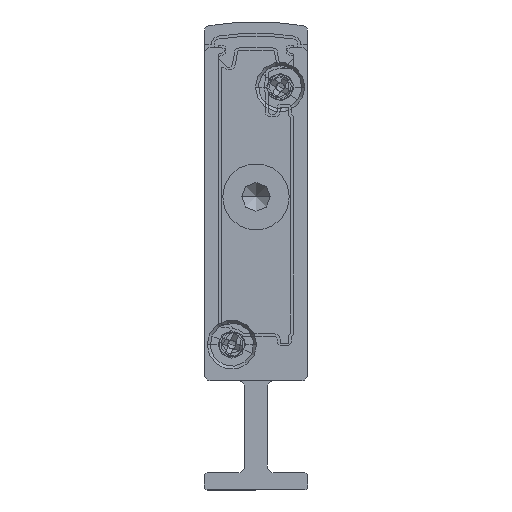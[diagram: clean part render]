
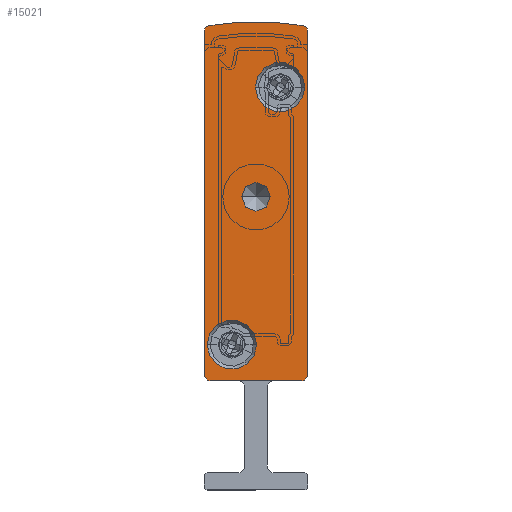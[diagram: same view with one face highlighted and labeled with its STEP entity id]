
A CAD part, front view. The second image highlights one B-rep face of the part: STEP entity #15021.
In plain terms, the highlighted planar face has unit normal (0, -1, 0).
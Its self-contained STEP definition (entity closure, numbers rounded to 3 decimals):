
#232 = CIRCLE ( 'NONE', #3534, 2.15 ) ;
#253 = AXIS2_PLACEMENT_3D ( 'NONE', #1400, #11431, #4004 ) ;
#258 = AXIS2_PLACEMENT_3D ( 'NONE', #1835, #25040, #27491 ) ;
#365 = AXIS2_PLACEMENT_3D ( 'NONE', #21447, #10867, #13573 ) ;
#407 = ORIENTED_EDGE ( 'NONE', *, *, #19669, .T. ) ;
#715 = CIRCLE ( 'NONE', #1598, 2.15 ) ;
#1400 = CARTESIAN_POINT ( 'NONE',  ( 4.5, -2.5, 25.5 ) ) ;
#1589 = CARTESIAN_POINT ( 'NONE',  ( 0., -2.5, 39.902 ) ) ;
#1598 = AXIS2_PLACEMENT_3D ( 'NONE', #32443, #29825, #14449 ) ;
#1764 = EDGE_LOOP ( 'NONE', ( #407, #12422 ) ) ;
#1835 = CARTESIAN_POINT ( 'NONE',  ( 0.5, -2.5, 10. ) ) ;
#2451 = AXIS2_PLACEMENT_3D ( 'NONE', #25562, #5221, #25783 ) ;
#2569 = ORIENTED_EDGE ( 'NONE', *, *, #5836, .F. ) ;
#2930 = CARTESIAN_POINT ( 'NONE',  ( 9., -2.5, 39.902 ) ) ;
#3507 = VECTOR ( 'NONE', #12287, 1000. ) ;
#3534 = AXIS2_PLACEMENT_3D ( 'NONE', #24640, #16885, #27187 ) ;
#3802 = DIRECTION ( 'NONE',  ( 1., 0., 0. ) ) ;
#3996 = LINE ( 'NONE', #2930, #24564 ) ;
#3997 = FACE_BOUND ( 'NONE', #20811, .T. ) ;
#4004 = DIRECTION ( 'NONE',  ( -1., 0., 0. ) ) ;
#4131 = DIRECTION ( 'NONE',  ( 0., -1., 0. ) ) ;
#4212 = CARTESIAN_POINT ( 'NONE',  ( 5.75, -2.5, 25.5 ) ) ;
#4371 = VERTEX_POINT ( 'NONE', #29439 ) ;
#4844 = VERTEX_POINT ( 'NONE', #5549 ) ;
#4947 = CARTESIAN_POINT ( 'NONE',  ( 8.5, -2.5, 10. ) ) ;
#5105 = CIRCLE ( 'NONE', #365, 1.25 ) ;
#5221 = DIRECTION ( 'NONE',  ( 0., 1., 0. ) ) ;
#5406 = ORIENTED_EDGE ( 'NONE', *, *, #17269, .F. ) ;
#5549 = CARTESIAN_POINT ( 'NONE',  ( 8.592, -2.5, 40.393 ) ) ;
#5654 = EDGE_CURVE ( 'NONE', #4844, #32818, #31796, .T. ) ;
#5836 = EDGE_CURVE ( 'NONE', #32818, #29566, #3996, .T. ) ;
#6442 = ORIENTED_EDGE ( 'NONE', *, *, #11303, .F. ) ;
#6719 = ORIENTED_EDGE ( 'NONE', *, *, #25882, .F. ) ;
#7173 = ORIENTED_EDGE ( 'NONE', *, *, #12890, .F. ) ;
#7851 = CARTESIAN_POINT ( 'NONE',  ( 0.5, -2.5, 9.5 ) ) ;
#8022 = CIRCLE ( 'NONE', #258, 0.5 ) ;
#8510 = EDGE_CURVE ( 'NONE', #14845, #20349, #16750, .T. ) ;
#8747 = CARTESIAN_POINT ( 'NONE',  ( 9., -2.5, 10. ) ) ;
#9378 = DIRECTION ( 'NONE',  ( 1., 0., 0. ) ) ;
#10422 = CARTESIAN_POINT ( 'NONE',  ( 9., -2.5, 39.902 ) ) ;
#10867 = DIRECTION ( 'NONE',  ( 0., 1., 0. ) ) ;
#10921 = EDGE_CURVE ( 'NONE', #13371, #22135, #12786, .T. ) ;
#11303 = EDGE_CURVE ( 'NONE', #29566, #21209, #13183, .T. ) ;
#11431 = DIRECTION ( 'NONE',  ( 0., 1., 0. ) ) ;
#11652 = CARTESIAN_POINT ( 'NONE',  ( 0., -2.5, 10. ) ) ;
#11656 = FACE_BOUND ( 'NONE', #32799, .T. ) ;
#12287 = DIRECTION ( 'NONE',  ( 0., 0., 1. ) ) ;
#12422 = ORIENTED_EDGE ( 'NONE', *, *, #21862, .T. ) ;
#12598 = DIRECTION ( 'NONE',  ( -1., 0., 0. ) ) ;
#12786 = LINE ( 'NONE', #21983, #3507 ) ;
#12868 = FACE_BOUND ( 'NONE', #1764, .T. ) ;
#12890 = EDGE_CURVE ( 'NONE', #32163, #13090, #232, .T. ) ;
#13090 = VERTEX_POINT ( 'NONE', #22843 ) ;
#13183 = CIRCLE ( 'NONE', #20515, 0.5 ) ;
#13371 = VERTEX_POINT ( 'NONE', #11652 ) ;
#13573 = DIRECTION ( 'NONE',  ( -1., 0., 0. ) ) ;
#14124 = ORIENTED_EDGE ( 'NONE', *, *, #26321, .F. ) ;
#14242 = ORIENTED_EDGE ( 'NONE', *, *, #5654, .F. ) ;
#14449 = DIRECTION ( 'NONE',  ( 1., 0., 0. ) ) ;
#14845 = VERTEX_POINT ( 'NONE', #19542 ) ;
#14896 = DIRECTION ( 'NONE',  ( 0., 1., 0. ) ) ;
#15021 = ADVANCED_FACE ( 'NONE', ( #11656, #3997, #32591, #12868 ), #22687, .F. ) ;
#15119 = CARTESIAN_POINT ( 'NONE',  ( 8.5, -2.5, 39.902 ) ) ;
#15743 = AXIS2_PLACEMENT_3D ( 'NONE', #27912, #33017, #17641 ) ;
#15746 = DIRECTION ( 'NONE',  ( -1., 0., 0. ) ) ;
#16750 = CIRCLE ( 'NONE', #17070, 2.15 ) ;
#16885 = DIRECTION ( 'NONE',  ( 0., -1., 0. ) ) ;
#17070 = AXIS2_PLACEMENT_3D ( 'NONE', #26957, #4131, #3802 ) ;
#17077 = EDGE_LOOP ( 'NONE', ( #32267, #26223, #6719, #5406, #6442, #2569, #14242, #33202 ) ) ;
#17269 = EDGE_CURVE ( 'NONE', #21209, #23265, #19855, .T. ) ;
#17641 = DIRECTION ( 'NONE',  ( -1., 0., 0. ) ) ;
#18271 = VECTOR ( 'NONE', #23215, 1000. ) ;
#18616 = CARTESIAN_POINT ( 'NONE',  ( 0.5, -2.5, 9.5 ) ) ;
#18683 = EDGE_CURVE ( 'NONE', #13090, #32163, #26605, .T. ) ;
#18800 = DIRECTION ( 'NONE',  ( 0., 1., 0. ) ) ;
#19542 = CARTESIAN_POINT ( 'NONE',  ( 8.75, -2.5, 35.05 ) ) ;
#19669 = EDGE_CURVE ( 'NONE', #29782, #33067, #24891, .T. ) ;
#19686 = CARTESIAN_POINT ( 'NONE',  ( 8.5, -2.5, 9.5 ) ) ;
#19855 = LINE ( 'NONE', #7851, #18271 ) ;
#20349 = VERTEX_POINT ( 'NONE', #23355 ) ;
#20491 = CARTESIAN_POINT ( 'NONE',  ( 3.25, -2.5, 25.5 ) ) ;
#20515 = AXIS2_PLACEMENT_3D ( 'NONE', #4947, #27977, #12598 ) ;
#20811 = EDGE_LOOP ( 'NONE', ( #7173, #21506 ) ) ;
#21209 = VERTEX_POINT ( 'NONE', #19686 ) ;
#21447 = CARTESIAN_POINT ( 'NONE',  ( 4.5, -2.5, 25.5 ) ) ;
#21506 = ORIENTED_EDGE ( 'NONE', *, *, #18683, .F. ) ;
#21862 = EDGE_CURVE ( 'NONE', #33067, #29782, #5105, .T. ) ;
#21983 = CARTESIAN_POINT ( 'NONE',  ( 0., -2.5, 39.902 ) ) ;
#22135 = VERTEX_POINT ( 'NONE', #1589 ) ;
#22208 = EDGE_CURVE ( 'NONE', #4371, #4844, #32867, .T. ) ;
#22687 = PLANE ( 'NONE',  #2451 ) ;
#22819 = EDGE_CURVE ( 'NONE', #22135, #4371, #29972, .T. ) ;
#22843 = CARTESIAN_POINT ( 'NONE',  ( 0.25, -2.5, 12.65 ) ) ;
#23215 = DIRECTION ( 'NONE',  ( -1., 0., 0. ) ) ;
#23265 = VERTEX_POINT ( 'NONE', #18616 ) ;
#23355 = CARTESIAN_POINT ( 'NONE',  ( 4.45, -2.5, 35.05 ) ) ;
#24386 = AXIS2_PLACEMENT_3D ( 'NONE', #31264, #18800, #15746 ) ;
#24564 = VECTOR ( 'NONE', #25889, 1000. ) ;
#24640 = CARTESIAN_POINT ( 'NONE',  ( 2.4, -2.5, 12.65 ) ) ;
#24891 = CIRCLE ( 'NONE', #253, 1.25 ) ;
#25040 = DIRECTION ( 'NONE',  ( 0., 1., 0. ) ) ;
#25562 = CARTESIAN_POINT ( 'NONE',  ( 0.5, -2.5, 39.902 ) ) ;
#25783 = DIRECTION ( 'NONE',  ( -1., 0., 0. ) ) ;
#25882 = EDGE_CURVE ( 'NONE', #23265, #13371, #8022, .T. ) ;
#25889 = DIRECTION ( 'NONE',  ( 0., 0., -1. ) ) ;
#26223 = ORIENTED_EDGE ( 'NONE', *, *, #10921, .F. ) ;
#26321 = EDGE_CURVE ( 'NONE', #20349, #14845, #715, .T. ) ;
#26605 = CIRCLE ( 'NONE', #30204, 2.15 ) ;
#26957 = CARTESIAN_POINT ( 'NONE',  ( 6.6, -2.5, 35.05 ) ) ;
#27187 = DIRECTION ( 'NONE',  ( 1., 0., 0. ) ) ;
#27491 = DIRECTION ( 'NONE',  ( -1., 0., 0. ) ) ;
#27527 = ORIENTED_EDGE ( 'NONE', *, *, #8510, .F. ) ;
#27912 = CARTESIAN_POINT ( 'NONE',  ( 4.5, -2.5, 17.092 ) ) ;
#27977 = DIRECTION ( 'NONE',  ( 0., 1., 0. ) ) ;
#28017 = DIRECTION ( 'NONE',  ( -1., 0., 0. ) ) ;
#28179 = AXIS2_PLACEMENT_3D ( 'NONE', #15119, #14896, #28017 ) ;
#29439 = CARTESIAN_POINT ( 'NONE',  ( 0.408, -2.5, 40.393 ) ) ;
#29566 = VERTEX_POINT ( 'NONE', #8747 ) ;
#29782 = VERTEX_POINT ( 'NONE', #20491 ) ;
#29825 = DIRECTION ( 'NONE',  ( 0., -1., 0. ) ) ;
#29972 = CIRCLE ( 'NONE', #24386, 0.5 ) ;
#30204 = AXIS2_PLACEMENT_3D ( 'NONE', #32935, #32705, #9378 ) ;
#30497 = CARTESIAN_POINT ( 'NONE',  ( 4.55, -2.5, 12.65 ) ) ;
#31264 = CARTESIAN_POINT ( 'NONE',  ( 0.5, -2.5, 39.902 ) ) ;
#31796 = CIRCLE ( 'NONE', #28179, 0.5 ) ;
#32163 = VERTEX_POINT ( 'NONE', #30497 ) ;
#32267 = ORIENTED_EDGE ( 'NONE', *, *, #22819, .F. ) ;
#32443 = CARTESIAN_POINT ( 'NONE',  ( 6.6, -2.5, 35.05 ) ) ;
#32591 = FACE_OUTER_BOUND ( 'NONE', #17077, .T. ) ;
#32705 = DIRECTION ( 'NONE',  ( 0., -1., 0. ) ) ;
#32799 = EDGE_LOOP ( 'NONE', ( #27527, #14124 ) ) ;
#32818 = VERTEX_POINT ( 'NONE', #10422 ) ;
#32867 = CIRCLE ( 'NONE', #15743, 23.658 ) ;
#32935 = CARTESIAN_POINT ( 'NONE',  ( 2.4, -2.5, 12.65 ) ) ;
#33017 = DIRECTION ( 'NONE',  ( 0., 1., 0. ) ) ;
#33067 = VERTEX_POINT ( 'NONE', #4212 ) ;
#33202 = ORIENTED_EDGE ( 'NONE', *, *, #22208, .F. ) ;
